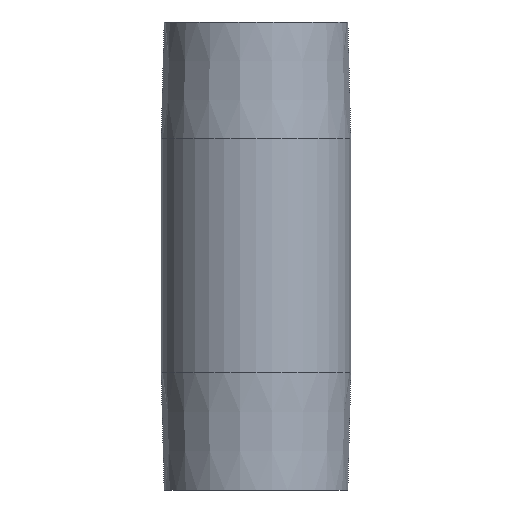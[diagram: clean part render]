
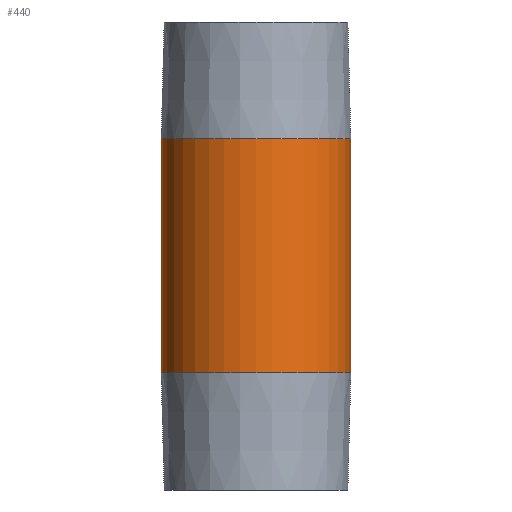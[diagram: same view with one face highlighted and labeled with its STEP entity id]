
A CAD part, front view. The second image highlights one B-rep face of the part: STEP entity #440.
In plain terms, the highlighted cylindrical face has radius 16 mm (diameter 32 mm), a partial arc.
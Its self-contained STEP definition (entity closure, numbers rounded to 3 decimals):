
#9 = CARTESIAN_POINT ( 'NONE',  ( -16., 0., 39.5 ) ) ;
#18 = EDGE_LOOP ( 'NONE', ( #199, #242, #340, #413 ) ) ;
#19 = DIRECTION ( 'NONE',  ( 0., 0., -1. ) ) ;
#24 = DIRECTION ( 'NONE',  ( -1., 0., 0. ) ) ;
#40 = VERTEX_POINT ( 'NONE', #381 ) ;
#45 = EDGE_CURVE ( 'NONE', #111, #40, #342, .T. ) ;
#57 = CARTESIAN_POINT ( 'NONE',  ( 16., 0., -19.75 ) ) ;
#68 = DIRECTION ( 'NONE',  ( 0., 0., 1. ) ) ;
#111 = VERTEX_POINT ( 'NONE', #360 ) ;
#170 = FACE_OUTER_BOUND ( 'NONE', #18, .T. ) ;
#183 = DIRECTION ( 'NONE',  ( 0., 0., -1. ) ) ;
#199 = ORIENTED_EDGE ( 'NONE', *, *, #224, .F. ) ;
#224 = EDGE_CURVE ( 'NONE', #325, #295, #291, .T. ) ;
#242 = ORIENTED_EDGE ( 'NONE', *, *, #436, .F. ) ;
#243 = CARTESIAN_POINT ( 'NONE',  ( 0., 0., 19.75 ) ) ;
#255 = EDGE_CURVE ( 'NONE', #40, #295, #466, .T. ) ;
#287 = CARTESIAN_POINT ( 'NONE',  ( 16., 0., 39.5 ) ) ;
#290 = DIRECTION ( 'NONE',  ( 1., 0., 0. ) ) ;
#291 = LINE ( 'NONE', #287, #384 ) ;
#295 = VERTEX_POINT ( 'NONE', #57 ) ;
#309 = DIRECTION ( 'NONE',  ( 0., 0., -1. ) ) ;
#325 = VERTEX_POINT ( 'NONE', #451 ) ;
#329 = CARTESIAN_POINT ( 'NONE',  ( 0., 0., -19.75 ) ) ;
#340 = ORIENTED_EDGE ( 'NONE', *, *, #45, .T. ) ;
#342 = LINE ( 'NONE', #9, #431 ) ;
#353 = CARTESIAN_POINT ( 'NONE',  ( 0., 0., 39.5 ) ) ;
#360 = CARTESIAN_POINT ( 'NONE',  ( -16., 0., 19.75 ) ) ;
#381 = CARTESIAN_POINT ( 'NONE',  ( -16., 0., -19.75 ) ) ;
#384 = VECTOR ( 'NONE', #183, 1000. ) ;
#388 = AXIS2_PLACEMENT_3D ( 'NONE', #329, #68, #290 ) ;
#413 = ORIENTED_EDGE ( 'NONE', *, *, #255, .T. ) ;
#417 = DIRECTION ( 'NONE',  ( 0., 0., 1. ) ) ;
#424 = AXIS2_PLACEMENT_3D ( 'NONE', #243, #417, #453 ) ;
#430 = CYLINDRICAL_SURFACE ( 'NONE', #459, 16. ) ;
#431 = VECTOR ( 'NONE', #309, 1000. ) ;
#436 = EDGE_CURVE ( 'NONE', #111, #325, #465, .T. ) ;
#440 = ADVANCED_FACE ( 'NONE', ( #170 ), #430, .T. ) ;
#451 = CARTESIAN_POINT ( 'NONE',  ( 16., 0., 19.75 ) ) ;
#453 = DIRECTION ( 'NONE',  ( 1., 0., 0. ) ) ;
#459 = AXIS2_PLACEMENT_3D ( 'NONE', #353, #19, #24 ) ;
#465 = CIRCLE ( 'NONE', #424, 16. ) ;
#466 = CIRCLE ( 'NONE', #388, 16. ) ;
